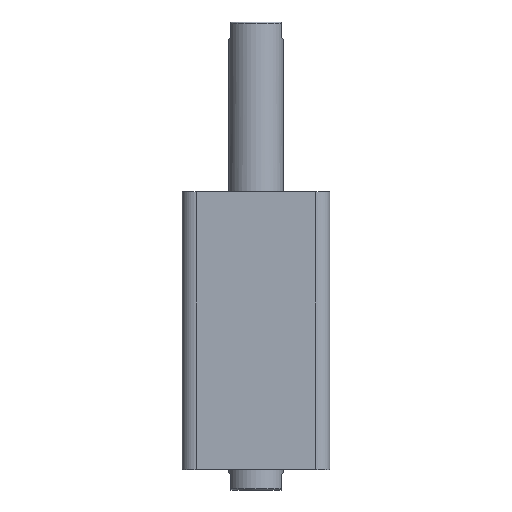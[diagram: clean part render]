
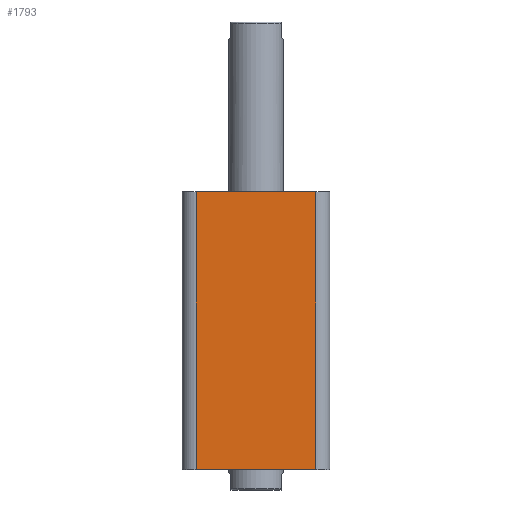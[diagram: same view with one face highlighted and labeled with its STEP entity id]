
A CAD part, front view. The second image highlights one B-rep face of the part: STEP entity #1793.
In plain terms, the highlighted planar face has unit normal (0, -1, 0).
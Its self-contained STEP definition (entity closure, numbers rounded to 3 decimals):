
#245 = CARTESIAN_POINT ( 'NONE',  ( -47., -47., 0. ) ) ;
#255 = CARTESIAN_POINT ( 'NONE',  ( -47., -47., 177. ) ) ;
#256 = DIRECTION ( 'NONE',  ( 1., 0., 0. ) ) ;
#257 = CARTESIAN_POINT ( 'NONE',  ( -38., -47., 177. ) ) ;
#258 = DIRECTION ( 'NONE',  ( 0., 0., -1. ) ) ;
#259 = DIRECTION ( 'NONE',  ( 1., 0., 0. ) ) ;
#260 = CARTESIAN_POINT ( 'NONE',  ( 38., -47., 177. ) ) ;
#261 = DIRECTION ( 'NONE',  ( 0., 0., 1. ) ) ;
#740 = VERTEX_POINT ( 'NONE', #2998 ) ;
#741 = VERTEX_POINT ( 'NONE', #2997 ) ;
#742 = VERTEX_POINT ( 'NONE', #2996 ) ;
#834 = EDGE_LOOP ( 'NONE', ( #2409, #2410, #2411, #2412 ) ) ;
#1018 = FACE_OUTER_BOUND ( 'NONE', #834, .T. ) ;
#1257 = CARTESIAN_POINT ( 'NONE',  ( -38., -47., 177. ) ) ;
#1793 = ADVANCED_FACE ( 'NONE', ( #1018 ), #3267, .F. ) ;
#2117 = LINE ( 'NONE', #245, #2130 ) ;
#2123 = LINE ( 'NONE', #255, #2126 ) ;
#2125 = LINE ( 'NONE', #257, #2128 ) ;
#2126 = VECTOR ( 'NONE', #256, 1000. ) ;
#2128 = VECTOR ( 'NONE', #258, 1000. ) ;
#2129 = LINE ( 'NONE', #260, #2132 ) ;
#2130 = VECTOR ( 'NONE', #259, 1000. ) ;
#2132 = VECTOR ( 'NONE', #261, 1000. ) ;
#2409 = ORIENTED_EDGE ( 'NONE', *, *, #2788, .F. ) ;
#2410 = ORIENTED_EDGE ( 'NONE', *, *, #2789, .T. ) ;
#2411 = ORIENTED_EDGE ( 'NONE', *, *, #2790, .T. ) ;
#2412 = ORIENTED_EDGE ( 'NONE', *, *, #2791, .T. ) ;
#2583 = VERTEX_POINT ( 'NONE', #1257 ) ;
#2788 = EDGE_CURVE ( 'NONE', #2583, #740, #2123, .T. ) ;
#2789 = EDGE_CURVE ( 'NONE', #2583, #742, #2125, .T. ) ;
#2790 = EDGE_CURVE ( 'NONE', #742, #741, #2117, .T. ) ;
#2791 = EDGE_CURVE ( 'NONE', #741, #740, #2129, .T. ) ;
#2889 = AXIS2_PLACEMENT_3D ( 'NONE', #3270, #3265, #3264 ) ;
#2996 = CARTESIAN_POINT ( 'NONE',  ( -38., -47., 0. ) ) ;
#2997 = CARTESIAN_POINT ( 'NONE',  ( 38., -47., 0. ) ) ;
#2998 = CARTESIAN_POINT ( 'NONE',  ( 38., -47., 177. ) ) ;
#3264 = DIRECTION ( 'NONE',  ( 0., 0., 1. ) ) ;
#3265 = DIRECTION ( 'NONE',  ( 0., 1., 0. ) ) ;
#3267 = PLANE ( 'NONE',  #2889 ) ;
#3270 = CARTESIAN_POINT ( 'NONE',  ( -47., -47., 177. ) ) ;
